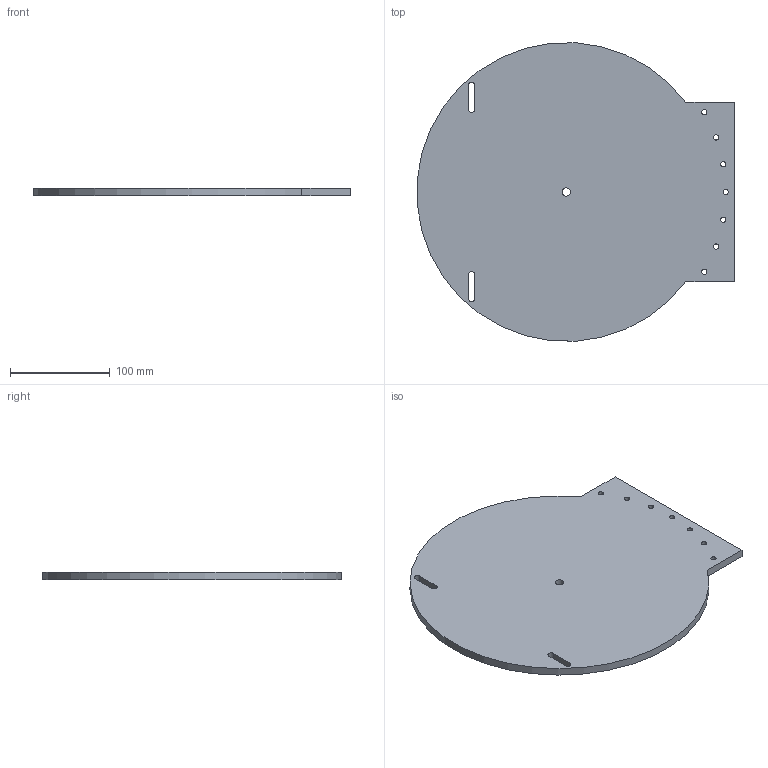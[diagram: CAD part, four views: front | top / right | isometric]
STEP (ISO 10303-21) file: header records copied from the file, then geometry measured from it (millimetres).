
FILE_DESCRIPTION(('Open CASCADE Model'),'2;1');
FILE_NAME('Open CASCADE Shape Model','2026-10-21T16:53:53',('Author'),( 'Open CASCADE'),'Open CASCADE STEP processor 7.9','Open CASCADE 7.9' ,'Unknown');
FILE_SCHEMA(('AUTOMOTIVE_DESIGN { 1 0 10303 214 1 1 1 1 }'));
Length unit declared in the file: millimetre
Products named in the file (1): Open CASCADE STEP translator 7.9 21
Bounding box: 318.44 x 299.35 x 8 mm (x, y, z)
Volume: 601952.1 mm3; surface area: 160932.2 mm2
Topology: 1 solids, 1 shells, 22 faces, 60 edges, 40 vertices
Faces by surface type: cylinder 13, plane 9
Full cylindrical faces by diameter (mm): 5.3 x7, 8.5 x1
Entity records: 1615 total; most frequent: CARTESIAN_POINT 393, DIRECTION 227, LINE 128, VECTOR 128, ORIENTED_EDGE 120, PCURVE 120, DEFINITIONAL_REPRESENTATION 120, EDGE_CURVE 60
